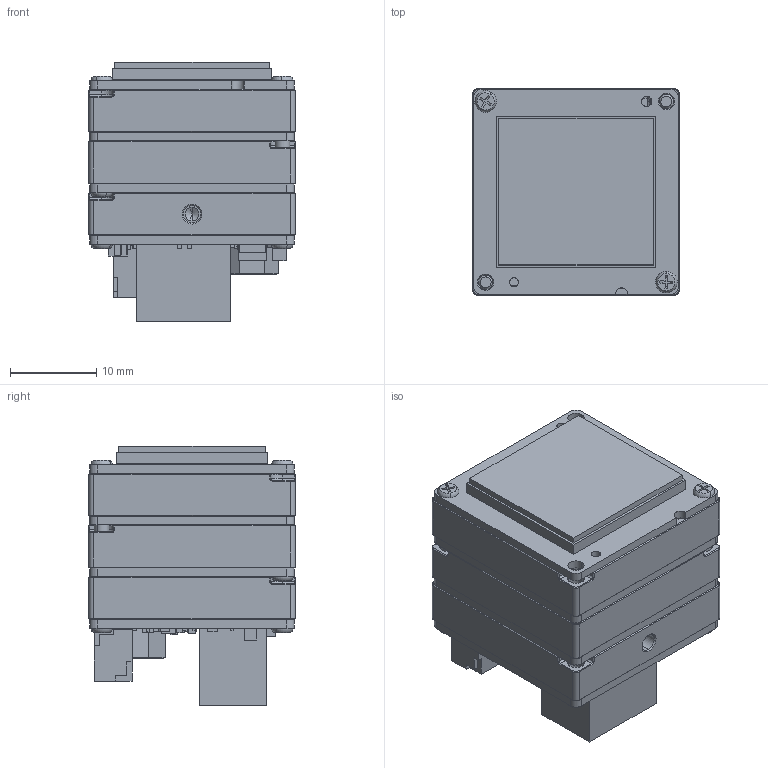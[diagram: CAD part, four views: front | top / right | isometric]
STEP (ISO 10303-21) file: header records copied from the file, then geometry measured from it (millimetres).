
FILE_DESCRIPTION (( 'STEP AP203' ), '1' );
FILE_NAME ('305-585-B_IX.STEP', '2023-08-03T22:43:47', ( '' ), ( '' ), 'SwSTEP 2.0', 'SolidWorks 2021', '' );
FILE_SCHEMA (( 'CONFIG_CONTROL_DESIGN' ));
Products named in the file (1): 305-585-B_IX
Bounding box: 24 x 24 x 30.14 mm (x, y, z)
Volume: 5827.5 mm3; surface area: 12075.6 mm2
Topology: 6 solids, 15 shells, 3500 faces, 9323 edges, 5764 vertices
Faces by surface type: plane 2178, cylinder 749, bspline 219, cone 197, torus 93, sphere 64
Entity records: 111576 total; most frequent: CARTESIAN_POINT 25803, ORIENTED_EDGE 18430, DIRECTION 16976, EDGE_CURVE 9215, LINE 6788, VECTOR 6788, VERTEX_POINT 5760, AXIS2_PLACEMENT_3D 5094
